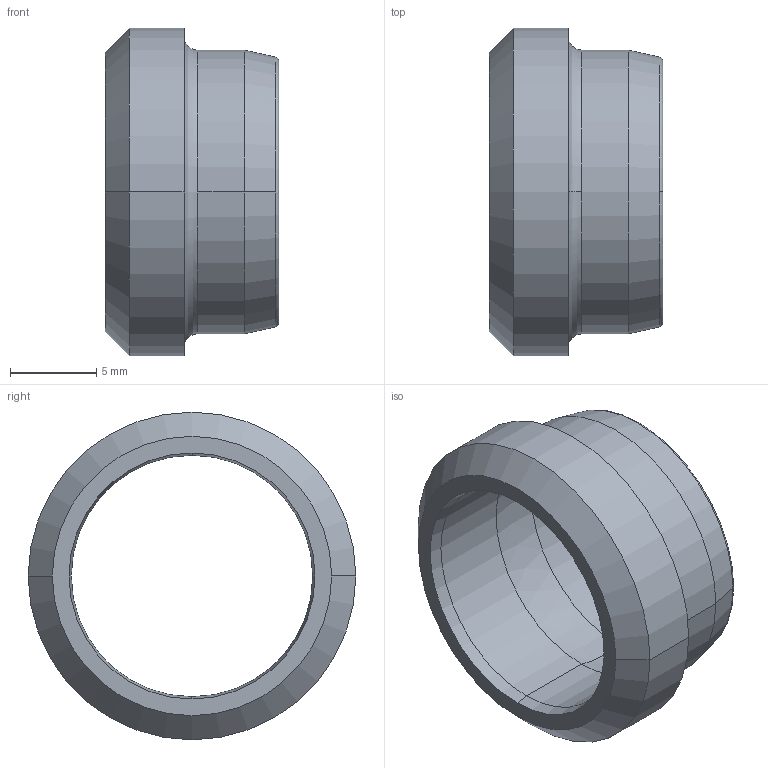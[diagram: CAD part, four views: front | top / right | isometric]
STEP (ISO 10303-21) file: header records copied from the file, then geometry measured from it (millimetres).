
FILE_DESCRIPTION((''),'2;1');
FILE_NAME('100118.stp','2006-03-06T15:06:21',('Dario Falcomer'),('CAST S.p.A.'),'AutoCAD STEP 2000i','AutoCAD 2000i',', , ');
FILE_SCHEMA(('CONFIG_CONTROL_DESIGN'));
Length unit declared in the file: millimetre
Products named in the file (2): 100118.0; 1001ESTERNO#0
Assembly tree (1 placements, depth 2):
  100118.0
    1001ESTERNO#0
Bounding box: 10.07 x 19 x 19 mm (x, y, z)
Volume: 798.8 mm3; surface area: 1181.7 mm2
Topology: 1 solids, 1 shells, 28 faces, 67 edges, 43 vertices
Faces by surface type: bspline 8, cone 8, cylinder 6, plane 4, torus 2
Entity records: 1241 total; most frequent: CARTESIAN_POINT 456, DIRECTION 164, ORIENTED_EDGE 134, AXIS2_PLACEMENT_3D 75, EDGE_CURVE 67, CIRCLE 53, VERTEX_POINT 43, EDGE_LOOP 32
